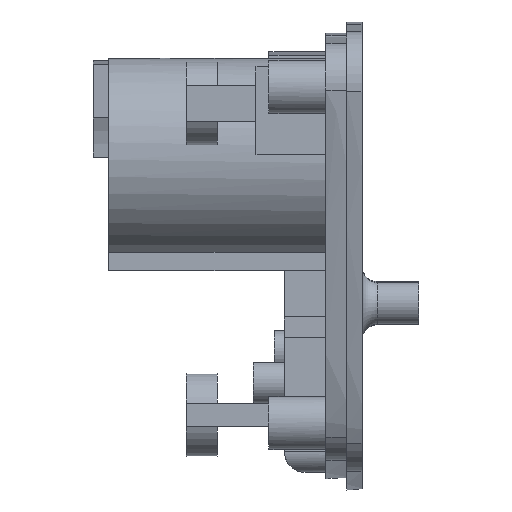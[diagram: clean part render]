
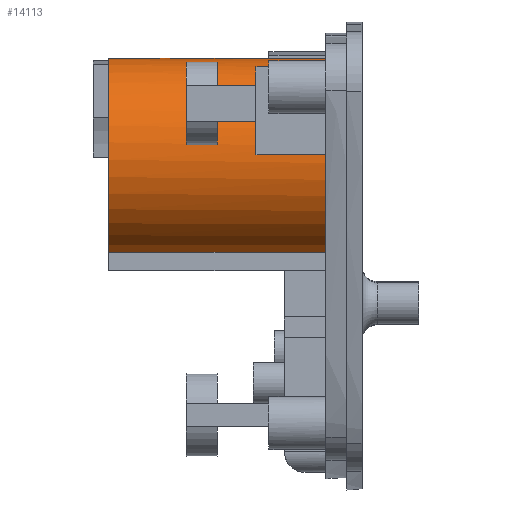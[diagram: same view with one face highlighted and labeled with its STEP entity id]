
A CAD part, left-side view. The second image highlights one B-rep face of the part: STEP entity #14113.
In plain terms, the highlighted cylindrical face has radius 19.25 mm (diameter 38.5 mm), a partial arc.
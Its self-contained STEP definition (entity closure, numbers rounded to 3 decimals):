
#120=CYLINDRICAL_SURFACE('',#14743,19.25);
#254=CIRCLE('',#14225,19.25);
#442=CIRCLE('',#14744,19.25);
#443=CIRCLE('',#14745,19.25);
#2160=FACE_OUTER_BOUND('',#3014,.T.);
#3014=EDGE_LOOP('',(#12698,#12699,#12700,#12701,#12702,#12703));
#4174=LINE('',#27427,#5348);
#4175=LINE('',#27431,#5349);
#4176=LINE('',#27434,#5350);
#5348=VECTOR('',#16959,10.);
#5349=VECTOR('',#16962,10.);
#5350=VECTOR('',#16965,10.);
#5497=VERTEX_POINT('',#17388);
#5498=VERTEX_POINT('',#17390);
#6777=VERTEX_POINT('',#27426);
#6778=VERTEX_POINT('',#27428);
#6779=VERTEX_POINT('',#27430);
#6780=VERTEX_POINT('',#27432);
#6891=EDGE_CURVE('',#5497,#5498,#254,.T.);
#8794=EDGE_CURVE('',#6777,#5497,#4174,.T.);
#8795=EDGE_CURVE('',#6778,#6777,#442,.T.);
#8796=EDGE_CURVE('',#6779,#6778,#4175,.T.);
#8797=EDGE_CURVE('',#6780,#6779,#443,.T.);
#8798=EDGE_CURVE('',#5498,#6780,#4176,.T.);
#12698=ORIENTED_EDGE('',*,*,#8794,.F.);
#12699=ORIENTED_EDGE('',*,*,#8795,.F.);
#12700=ORIENTED_EDGE('',*,*,#8796,.F.);
#12701=ORIENTED_EDGE('',*,*,#8797,.F.);
#12702=ORIENTED_EDGE('',*,*,#8798,.F.);
#12703=ORIENTED_EDGE('',*,*,#6891,.F.);
#14113=ADVANCED_FACE('',(#2160),#120,.T.);
#14225=AXIS2_PLACEMENT_3D('',#17391,#14900,#14901);
#14743=AXIS2_PLACEMENT_3D('',#27425,#16957,#16958);
#14744=AXIS2_PLACEMENT_3D('',#27429,#16960,#16961);
#14745=AXIS2_PLACEMENT_3D('',#27433,#16963,#16964);
#14900=DIRECTION('center_axis',(0.,-1.,0.));
#14901=DIRECTION('ref_axis',(-0.324,0.,-0.946));
#16957=DIRECTION('center_axis',(0.,1.,0.));
#16958=DIRECTION('ref_axis',(-0.777,0.,0.629));
#16959=DIRECTION('',(0.,-1.,0.));
#16960=DIRECTION('center_axis',(0.,-1.,0.));
#16961=DIRECTION('ref_axis',(-0.324,0.,-0.946));
#16962=DIRECTION('',(0.,-1.,0.));
#16963=DIRECTION('center_axis',(0.,1.,0.));
#16964=DIRECTION('ref_axis',(-0.324,0.,-0.946));
#16965=DIRECTION('',(0.,1.,0.));
#17388=CARTESIAN_POINT('',(15.272,2.,-13.39));
#17390=CARTESIAN_POINT('',(-6.243,2.,-43.318));
#17391=CARTESIAN_POINT('Origin',(0.,2.,-25.108));
#27425=CARTESIAN_POINT('Origin',(0.,2.,-25.108));
#27426=CARTESIAN_POINT('',(15.272,17.,-13.39));
#27427=CARTESIAN_POINT('',(15.272,2.,-13.39));
#27428=CARTESIAN_POINT('',(16.51,17.,-15.21));
#27429=CARTESIAN_POINT('Origin',(0.,17.,-25.108));
#27430=CARTESIAN_POINT('',(16.51,48.,-15.21));
#27431=CARTESIAN_POINT('',(16.51,2.,-15.21));
#27432=CARTESIAN_POINT('',(-6.243,48.,-43.318));
#27433=CARTESIAN_POINT('Origin',(0.,48.,-25.108));
#27434=CARTESIAN_POINT('',(-6.243,2.,-43.318));
